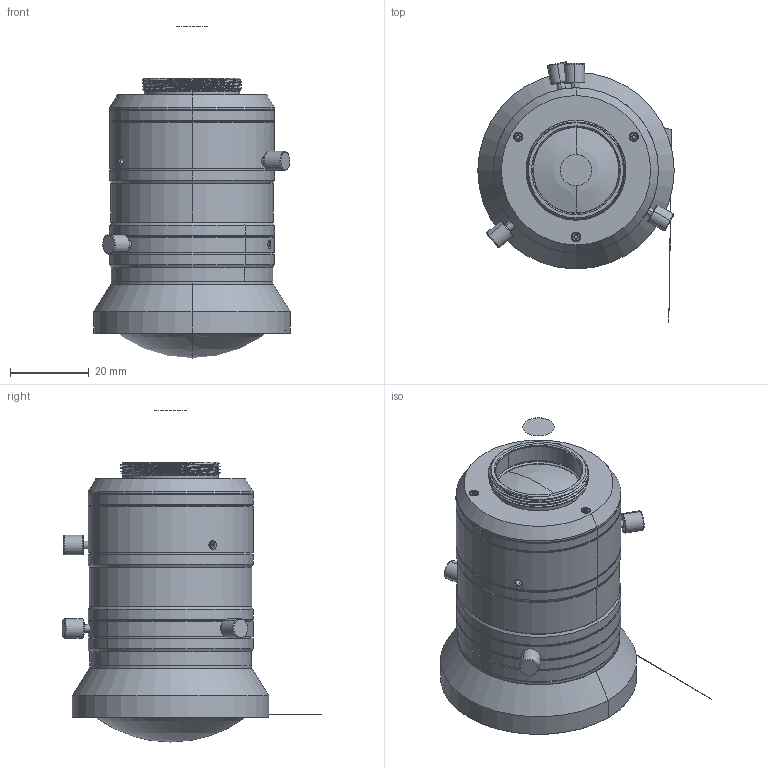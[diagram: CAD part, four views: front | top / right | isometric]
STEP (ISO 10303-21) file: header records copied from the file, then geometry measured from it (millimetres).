
FILE_DESCRIPTION((''),'2;1');
FILE_NAME('LS-KF1224M-25MP.stp','2020-12-31T10:57:51',('LumaSpec Vision'),('LumaSpec Vision'),'LumaSpec Vision','LumaSpec Vision','');
FILE_SCHEMA(('CONFIG_CONTROL_DESIGN'));
Products named in the file (25): LS-KF1224M-25MP; FK20S01-211_9; FK20S01-G1_12; FK20S01-301_9; FK20S04A-103_65; FK20S01-XM_3; FK20S01A-102_27; FK20S01-121_ASM_5; FK20S01-G15_9; FK20S01-303_10; FK20S01-122_ASM_5_ASM; PH7102A-502_6; FK20S01-02_ASM_7_ASM; FK20S01A-104_29; FK20S01A-105_33; FK20S01A-107_12; PH7100A-509_7; FK20S04-106_9; PH7100A-504_4_1; PH7100A-502_7_1; FK20S04-109_4; PHX-16-502_6_1; PV16-505_4_1; FK20S01A-ZP_ASM_36_ASM; LS-KF1224M-25MP_ASM
Assembly tree (35 placements, depth 5):
  LS-KF1224M-25MP_ASM
    FK20S01A-ZP_ASM_36_ASM
      LS-KF1224M-25MP
      FK20S01-211_9
      FK20S01-G1_12
      FK20S01-301_9
      FK20S04A-103_65
      FK20S01-XM_3
      FK20S01A-102_27
      FK20S01-02_ASM_7_ASM
        FK20S01-121_ASM_5
        FK20S01-122_ASM_5_ASM
          FK20S01-G15_9
          FK20S01-303_10
        PH7102A-502_6  x2
      FK20S01A-104_29
      FK20S01A-105_33
      FK20S01A-107_12
      PH7100A-509_7  x4
      FK20S04-106_9
      PH7100A-504_4_1
      PH7100A-502_7_1  x3
      FK20S04-109_4
      PHX-16-502_6_1  x3
      PV16-505_4_1  x4
Bounding box: 50 x 66.15 x 84.5 mm (x, y, z)
Volume: 49505.7 mm3; surface area: 46560.5 mm2
Topology: 31 solids, 31 shells, 986 faces, 2404 edges, 1501 vertices
Faces by surface type: cylinder 323, cone 255, plane 232, bspline 144, torus 18, sphere 14
Entity records: 37389 total; most frequent: CARTESIAN_POINT 19267, ORIENTED_EDGE 3726, DIRECTION 3600, EDGE_CURVE 1863, AXIS2_PLACEMENT_3D 1448, VERTEX_POINT 1183, EDGE_LOOP 866, FACE_OUTER_BOUND 760
